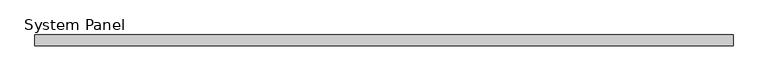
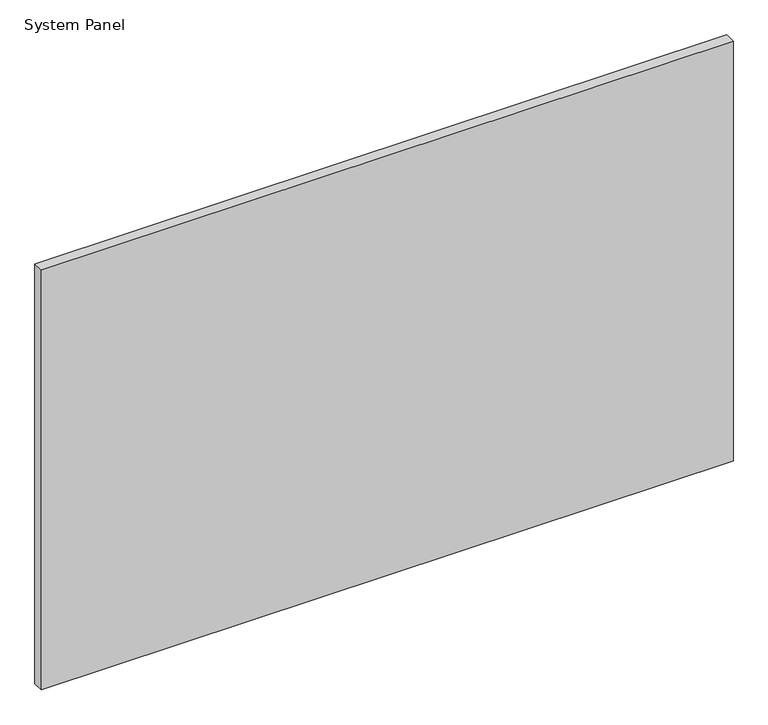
"""IFC4 building model written with IfcOpenShell, lengths in millimetres: plate geometry, System Panel : Glazed - ACMP (AL-1)."""

from ifc_helpers import new_model, si_unit, origin, origin_with_axes, place, context, project, spatial, polyline, outline, extrude, source, transform, mapped, element, save


def system_panel_6747bd53(model_context):
    return source(origin(), model_context, "Body", "SweptSolid", [
        extrude(outline(polyline([(806.45, -25.4), (-806.45, -25.4), (-806.45, 0.0), (806.45, 0.0), (806.45, -25.4)])), origin_with_axes(), (0.0, 0.0, 1.0), 1035.0500024),
    ])


if __name__ == "__main__":
    model = new_model("IFC4")
    model_context = context("Model", 3, world=origin())
    ifc_project = project(units=[si_unit("LENGTHUNIT", "METRE", prefix="MILLI")], contexts=[model_context])
    site = spatial("IfcSite", under=ifc_project)
    building = spatial("IfcBuilding", under=site)
    placement = place(None, origin())
    system_panel_shape = system_panel_6747bd53(model_context)
    element("IfcPlate", 1, ObjectType="System Panel : Glazed - ACMP (AL-1)", at=placement, inside=building, context=model_context, shape_type="MappedRepresentation", body=[
        mapped(system_panel_shape, transform((0.0, 0.0, 0.0), x_axis=(1.0, 0.0, 0.0), y_axis=(0.0, 1.0, 0.0), z_axis=(0.0, 0.0, 1.0))),
    ])
    save(model, "model.ifc")
